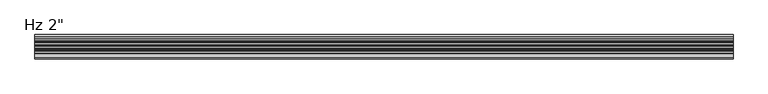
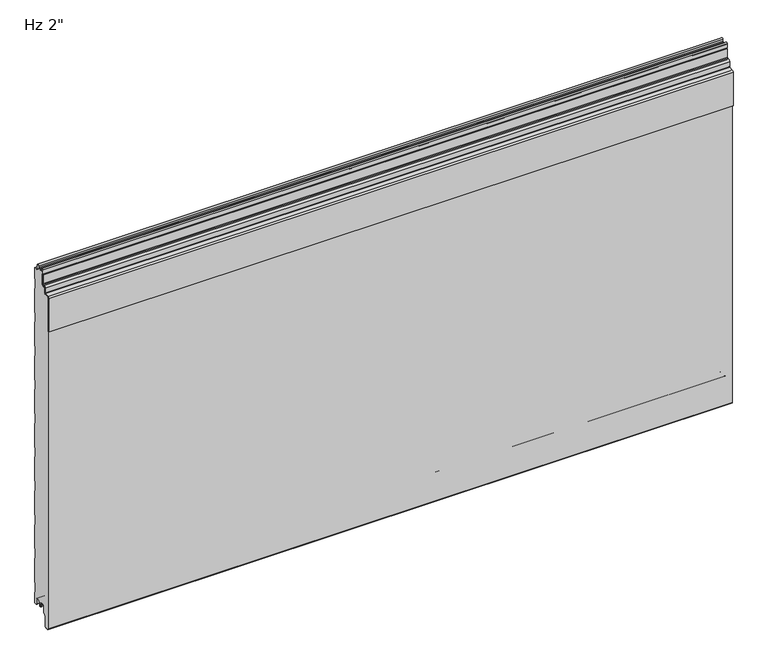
"""IFC4 building model written with IfcOpenShell, lengths in millimetres: plate geometry."""

from ifc_helpers import new_model, si_unit, frame, origin, place, context, project, spatial, polyline, circle_curve, source, transform, mapped, element, save
from ifc_brep_helpers import plane_surface, cylinder_surface, revolved_surface, advanced_brep


def plate_93d587fa(model_context):
    return source(origin(), model_context, "Body", "AdvancedBrep", [
        advanced_brep(
        [(730.0, -29.7008679, 735.9534183), (730.0, -29.7008679, 754.6986183), (730.0, -31.2248679, 754.6986183), (730.0, -31.2248679, 735.9534183), (730.0, -32.7488679, 734.4294183), (730.0, -35.8476679, 734.4294183), (730.0, -39.3020679, 730.9750183), (730.0, -39.3020679, 719.762461), (730.0, -39.9976552, 719.0033606), (730.0, -49.5416507, 717.808533), (730.0, -52.324, 714.7721316), (730.0, -52.3360323, 639.2048183), (730.0, -50.8, 639.2048183), (730.0, -50.8, 714.7721316), (730.0, -49.4088254, 716.2903323), (730.0, -39.8648299, 717.4851599), (730.0, -37.7780679, 719.762461), (730.0, -37.7780679, 730.9750183), (730.0, -35.8476679, 732.9054183), (730.0, -32.7488679, 732.9054183), (-730.0, -29.7008679, 735.9534183), (-730.0, -32.7488679, 732.9054183), (-730.0, -35.8476679, 732.9054183), (-730.0, -37.7780679, 730.9750183), (-730.0, -37.7780679, 719.762461), (-730.0, -39.8648299, 717.4851599), (-730.0, -49.4088254, 716.2903323), (-730.0, -50.8, 714.7721316), (-730.0, -50.8, 639.2048183), (-730.0, -52.3360323, 639.2048183), (-730.0, -52.3360323, 714.7721316), (-730.0, -49.5416507, 717.808533), (-730.0, -39.9976552, 719.0033606), (-730.0, -39.3020679, 719.762461), (-730.0, -39.3020679, 730.9750183), (-730.0, -35.8476679, 734.4294183), (-730.0, -32.7488679, 734.4294183), (-730.0, -31.2248679, 735.9534183), (-730.0, -31.2248679, 754.6986183), (-730.0, -29.7008679, 754.6986183)],
        [
            (0, 1),
            (1, 2),
            (2, 3),
            (3, 4, circle_curve(frame((730.0, -32.7488679, 735.9534183), z_axis=(-1.0, 0.0, 0.0), x_axis=(0.0, 1.0, 0.0)), 1.524)),
            (4, 5),
            (5, 6, circle_curve(frame((730.0, -35.8476679, 730.9750183), z_axis=(1.0, 0.0, 0.0), x_axis=(0.0, 1.0, 0.0)), 3.4544)),
            (6, 7),
            (7, 8, circle_curve(frame((730.0, -40.0640679, 719.762461), z_axis=(-1.0, 0.0, 0.0), x_axis=(0.0, 1.0, 0.0)), 0.762)),
            (8, 9),
            (9, 10, circle_curve(frame((730.0, -49.276, 714.7721316), z_axis=(1.0, 0.0, 0.0), x_axis=(0.0, 1.0, 0.0)), 3.048)),
            (10, 11),
            (11, 12),
            (12, 13),
            (13, 14, circle_curve(frame((730.0, -49.276, 714.7721316), z_axis=(-1.0, 0.0, 0.0), x_axis=(0.0, 1.0, 0.0)), 1.524)),
            (14, 15),
            (15, 16, circle_curve(frame((730.0, -40.0640679, 719.762461), z_axis=(1.0, 0.0, 0.0), x_axis=(0.0, 1.0, 0.0)), 2.286)),
            (16, 17),
            (17, 18, circle_curve(frame((730.0, -35.8476679, 730.9750183), z_axis=(-1.0, 0.0, 0.0), x_axis=(0.0, 1.0, 0.0)), 1.9304)),
            (18, 19),
            (19, 0, circle_curve(frame((730.0, -32.7488679, 735.9534183), z_axis=(1.0, 0.0, 0.0), x_axis=(0.0, 1.0, 0.0)), 3.048)),
            (20, 21, circle_curve(frame((-730.0, -32.7488679, 735.9534183), z_axis=(-1.0, 0.0, 0.0), x_axis=(0.0, 1.0, 0.0)), 3.048)),
            (21, 22),
            (22, 23, circle_curve(frame((-730.0, -35.8476679, 730.9750183), z_axis=(1.0, 0.0, 0.0), x_axis=(0.0, 1.0, 0.0)), 1.9304)),
            (23, 24),
            (24, 25, circle_curve(frame((-730.0, -40.0640679, 719.762461), z_axis=(-1.0, 0.0, 0.0), x_axis=(0.0, 1.0, 0.0)), 2.286)),
            (25, 26),
            (26, 27, circle_curve(frame((-730.0, -49.276, 714.7721316), z_axis=(1.0, 0.0, 0.0), x_axis=(0.0, 1.0, 0.0)), 1.524)),
            (27, 28),
            (28, 29),
            (29, 30),
            (30, 31, circle_curve(frame((-730.0, -49.276, 714.7721316), z_axis=(-1.0, 0.0, 0.0), x_axis=(0.0, 1.0, 0.0)), 3.048)),
            (31, 32),
            (32, 33, circle_curve(frame((-730.0, -40.0640679, 719.762461), z_axis=(1.0, 0.0, 0.0), x_axis=(0.0, 1.0, 0.0)), 0.762)),
            (33, 34),
            (34, 35, circle_curve(frame((-730.0, -35.8476679, 730.9750183), z_axis=(-1.0, 0.0, 0.0), x_axis=(0.0, 1.0, 0.0)), 3.4544)),
            (35, 36),
            (36, 37, circle_curve(frame((-730.0, -32.7488679, 735.9534183), z_axis=(1.0, 0.0, 0.0), x_axis=(0.0, 1.0, 0.0)), 1.524)),
            (37, 38),
            (38, 39),
            (39, 20),
            (2, 38),
            (37, 3),
            (15, 25),
            (24, 16),
            (7, 33),
            (32, 8),
            (5, 35),
            (34, 6),
            (1, 39),
            (36, 4),
            (9, 31),
            (30, 10),
            (13, 27),
            (26, 14),
            (0, 20),
            (12, 28),
            (29, 11),
            (23, 17),
            (18, 22),
            (21, 19),
        ],
        [
            plane_surface(frame((730.0, -50.8, 754.6986183), z_axis=(1.0, 0.0, 0.0), x_axis=(0.0, 0.0, -1.0))),
            plane_surface(frame((-730.0, -50.8, 754.6986183), z_axis=(-1.0, 0.0, 0.0), x_axis=(0.0, 0.0, -1.0))),
            plane_surface(frame((730.0, -31.2248679, 735.9534183), z_axis=(0.0, -1.0, 0.0), x_axis=(-1.0, 0.0, 0.0))),
            cylinder_surface(frame((730.0, -40.0640679, 719.762461), z_axis=(1.0, 0.0, 0.0), x_axis=(0.0, 1.0, 0.0)), 2.286),
            revolved_surface(polyline([(-730.0, -39.3020679, 719.762461), (730.0, -39.3020679, 719.762461)]), (730.0, -40.0640679, 719.762461), (-1.0, 0.0, 0.0)),
            cylinder_surface(frame((730.0, -35.8476679, 730.9750183), z_axis=(1.0, 0.0, 0.0), x_axis=(0.0, 1.0, 0.0)), 3.4544),
            plane_surface(frame((730.0, -31.2248679, 754.6986183), z_axis=(0.0, 0.0, 1.0), x_axis=(-1.0, 0.0, 0.0))),
            revolved_surface(polyline([(-730.0, -31.2248679, 735.9534183), (730.0, -31.2248679, 735.9534183)]), (730.0, -32.7488679, 735.9534183), (-1.0, 0.0, 0.0)),
            cylinder_surface(frame((730.0, -49.276, 714.7721316), z_axis=(1.0, 0.0, 0.0), x_axis=(0.0, 1.0, 0.0)), 3.048),
            revolved_surface(polyline([(-730.0, -47.752, 714.7721316), (730.0, -47.752, 714.7721316)]), (730.0, -49.276, 714.7721316), (-1.0, 0.0, 0.0)),
            plane_surface(frame((730.0, -29.7008679, 754.6986183), z_axis=(0.0, 1.0, 0.0), x_axis=(-1.0, 0.0, 0.0))),
            plane_surface(frame((730.0, -39.8648299, 717.4851599), z_axis=(0.0, 0.12422187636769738, -0.9922544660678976), x_axis=(-1.0, 0.0, 0.0))),
            plane_surface(frame((730.0, -50.8, 714.7721316), z_axis=(0.0, 1.0, 0.0), x_axis=(-1.0, 0.0, 0.0))),
            plane_surface(frame((730.0, -49.5416507, 717.808533), z_axis=(0.0, -0.12422187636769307, 0.9922544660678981), x_axis=(-1.0, 0.0, 0.0))),
            plane_surface(frame((730.0, -35.8476679, 734.4294183), z_axis=(0.0, 0.0, 1.0), x_axis=(-1.0, 0.0, 0.0))),
            plane_surface(frame((730.0, -52.3360323, 639.2048183), z_axis=(0.0, -1.0, 0.0), x_axis=(-1.0, 0.0, 0.0))),
            plane_surface(frame((730.0, -50.8, 639.2048183), z_axis=(0.0, 0.0, -1.0), x_axis=(-1.0, 0.0, 0.0))),
            plane_surface(frame((730.0, -37.7780679, 730.9750183), z_axis=(0.0, 1.0, 0.0), x_axis=(-1.0, 0.0, 0.0))),
            plane_surface(frame((730.0, -32.7488679, 732.9054183), z_axis=(0.0, 0.0, -1.0), x_axis=(-1.0, 0.0, 0.0))),
            plane_surface(frame((730.0, -39.3020679, 719.762461), z_axis=(0.0, -1.0, 0.0), x_axis=(-1.0, 0.0, 0.0))),
            revolved_surface(polyline([(-730.0, -33.9172679, 730.9750183), (730.0, -33.9172679, 730.9750183)]), (730.0, -35.8476679, 730.9750183), (-1.0, 0.0, 0.0)),
            cylinder_surface(frame((730.0, -32.7488679, 735.9534183), z_axis=(1.0, 0.0, 0.0), x_axis=(0.0, 1.0, 0.0)), 3.048),
        ],
        [
            (0, [[1, 2, 3, 4, 5, 6, 7, 8, 9, 10, 11, 12, 13, 14, 15, 16, 17, 18, 19, 20]]),
            (1, [[21, 22, 23, 24, 25, 26, 27, 28, 29, 30, 31, 32, 33, 34, 35, 36, 37, 38, 39, 40]]),
            (2, [[41, -38, 42, -3]]),
            (3, [[43, -25, 44, -16]]),
            (4, [[45, -33, 46, -8]]),
            (5, [[47, -35, 48, -6]]),
            (6, [[49, -39, -41, -2]]),
            (7, [[-42, -37, 50, -4]]),
            (8, [[51, -31, 52, -10]]),
            (9, [[53, -27, 54, -14]]),
            (10, [[55, -40, -49, -1]]),
            (11, [[-54, -26, -43, -15]]),
            (12, [[56, -28, -53, -13]]),
            (13, [[-46, -32, -51, -9]]),
            (14, [[-50, -36, -47, -5]]),
            (15, [[-52, -30, 57, -11]]),
            (16, [[-57, -29, -56, -12]]),
            (17, [[-44, -24, 58, -17]]),
            (18, [[59, -22, 60, -19]]),
            (19, [[-48, -34, -45, -7]]),
            (20, [[-58, -23, -59, -18]]),
            (21, [[-60, -21, -55, -20]]),
        ],
    ),
        advanced_brep(
        [(-730.0, -22.470875, 1.0316999), (-730.0, -21.3014003, 2.2328239), (-730.0, -21.3014003, 5.9912173), (-730.0, -22.6998791, 5.9912173), (-730.0, -22.6998791, 8.6903283), (-730.0, -26.0498744, 12.0403236), (-730.0, -30.4498656, 12.0403236), (-730.0, -33.7998609, 8.6903283), (-730.0, -33.7998609, -3.1205608), (-730.0, -34.2977778, -4.3226385), (-730.0, -39.7998489, -9.8247096), (-730.0, -39.7998489, -31.9198392), (-730.0, -42.0184509, -34.5765709), (-730.0, -47.0002718, -35.0125699), (-730.0, -49.7945967, -32.4521176), (-730.0, -49.8, 713.515622), (-730.0, -48.0149259, 715.4669057), (-730.0, -39.5539491, 716.221161), (-730.0, -36.7906462, 719.3653654), (-730.0, -36.7906462, 729.4583308), (-730.0, -35.8392375, 730.4097394), (-730.0, -32.6955822, 730.4097394), (-730.0, -28.6961293, 734.4091924), (-730.0, -28.6961293, 755.5895515), (-730.0, -30.676977, 756.7334028), (-730.0, -30.3217167, 765.706811), (-730.0, -26.1211391, 765.7037148), (-730.0, -25.8767242, 761.6977997), (-730.0, -24.0819116, 759.9686884), (-730.0, -21.297365, 759.9686884), (-730.0, -21.297365, 760.9686884), (-730.0, -22.884865, 760.9686884), (-730.0, -21.8535534, 762.0), (-730.0, -18.6247968, 762.0), (-730.0, -17.5934852, 760.9686884), (-730.0, -19.0078731, 760.9686884), (-730.0, -19.0078731, 759.9686884), (-730.0, -16.6806905, 759.9686884), (-730.0, -14.9319872, 761.6513685), (-730.0, -14.7123265, 765.7921924), (-730.0, -10.4109885, 765.7931719), (-730.0, -10.0037808, 757.3016499), (-730.0, -6.008945, 753.4787013), (-730.0, -1.0063443, 753.4787013), (-730.0, -1.0063443, 728.9787915), (-730.0, -2.206575, 727.5931585), (-730.0, -2.206575, 708.2179922), (-730.0, -1.0063443, 706.8323593), (-730.0, -1.0063443, 652.7789439), (-730.0, -2.206575, 651.3933109), (-730.0, -2.206575, 632.0181446), (-730.0, -1.0063443, 630.6325117), (-730.0, -1.0063443, 576.5790963), (-730.0, -2.206575, 575.1934633), (-730.0, -2.206575, 555.818297), (-730.0, -1.0063443, 554.4326641), (-730.0, -1.0063443, 500.3792487), (-730.0, -2.206575, 498.9936157), (-730.0, -2.206575, 479.6184494), (-730.0, -1.0063443, 478.2328165), (-730.0, -1.0063443, 424.1794011), (-730.0, -2.206575, 422.7937681), (-730.0, -2.206575, 403.4186018), (-730.0, -1.0063443, 402.0329689), (-730.0, -1.0063443, 347.9795535), (-730.0, -2.206575, 346.5939205), (-730.0, -2.206575, 327.2187542), (-730.0, -1.0063443, 325.8331213), (-730.0, -1.0063443, 271.7797059), (-730.0, -2.206575, 270.3940729), (-730.0, -2.206575, 251.0189066), (-730.0, -1.0063443, 249.6332737), (-730.0, -1.0063443, 195.5798583), (-730.0, -2.206575, 194.1942253), (-730.0, -2.206575, 174.819059), (-730.0, -1.0063443, 173.4334261), (-730.0, -1.0063443, 119.3800107), (-730.0, -2.206575, 117.9943777), (-730.0, -2.206575, 98.6192114), (-730.0, -1.0063443, 97.2335785), (-730.0, -1.0063443, 43.1801631), (-730.0, -2.206575, 41.7945301), (-730.0, -2.206575, 22.4193638), (-730.0, -1.0063443, 21.0337309), (-730.0, -1.0063443, -3.4662506), (-730.0, -5.2378832, -3.4662506), (-730.0, -7.0078774, -1.6962564), (-730.0, -7.0078774, 8.7237222), (-730.0, -10.3078733, 12.023718), (-730.0, -14.7078645, 12.023718), (-730.0, -18.0078602, 8.7237223), (-730.0, -18.0078602, 6.0315125), (-730.0, -19.0078547, 6.0315125), (-730.0, -19.0078547, 2.0313089), (-730.0, -18.0078635, 1.0313117), (-730.0, -19.0391752, 0.0), (-730.0, -21.4391751, 0.0), (730.0, -22.470875, 1.0316999), (730.0, -21.4391751, 0.0), (730.0, -19.0391752, 0.0), (730.0, -18.0078635, 1.0313117), (730.0, -19.0078547, 2.0313089), (730.0, -19.0078547, 6.0315125), (730.0, -18.0078602, 6.0315125), (730.0, -18.0078602, 8.7237223), (730.0, -14.7078645, 12.023718), (730.0, -10.3078733, 12.023718), (730.0, -7.0078774, 8.7237222), (730.0, -7.0078774, -1.6962564), (730.0, -5.2378832, -3.4662506), (730.0, -1.0063443, -3.4662506), (730.0, -1.0063443, 21.0337309), (730.0, -2.206575, 22.4193638), (730.0, -2.206575, 41.7945301), (730.0, -1.0063443, 43.1801631), (730.0, -1.0063443, 97.2335785), (730.0, -2.206575, 98.6192114), (730.0, -2.206575, 117.9943777), (730.0, -1.0063443, 119.3800107), (730.0, -1.0063443, 173.4334261), (730.0, -2.206575, 174.819059), (730.0, -2.206575, 194.1942253), (730.0, -1.0063443, 195.5798583), (730.0, -1.0063443, 249.6332737), (730.0, -2.206575, 251.0189066), (730.0, -2.206575, 270.3940729), (730.0, -1.0063443, 271.7797059), (730.0, -1.0063443, 325.8331213), (730.0, -2.206575, 327.2187542), (730.0, -2.206575, 346.5939205), (730.0, -1.0063443, 347.9795535), (730.0, -1.0063443, 402.0329689), (730.0, -2.206575, 403.4186018), (730.0, -2.206575, 422.7937681), (730.0, -1.0063443, 424.1794011), (730.0, -1.0063443, 478.2328165), (730.0, -2.206575, 479.6184494), (730.0, -2.206575, 498.9936157), (730.0, -1.0063443, 500.3792487), (730.0, -1.0063443, 554.4326641), (730.0, -2.206575, 555.818297), (730.0, -2.206575, 575.1934633), (730.0, -1.0063443, 576.5790963), (730.0, -1.0063443, 630.6325117), (730.0, -2.206575, 632.0181446), (730.0, -2.206575, 651.3933109), (730.0, -1.0063443, 652.7789439), (730.0, -1.0063443, 706.8323593), (730.0, -2.206575, 708.2179922), (730.0, -2.206575, 727.5931585), (730.0, -1.0063443, 728.9787915), (730.0, -1.0063443, 753.4787013), (730.0, -6.008945, 753.4787013), (730.0, -10.0037808, 757.3016499), (730.0, -10.4109885, 765.7931719), (730.0, -14.7123265, 765.7921924), (730.0, -14.9319872, 761.6513685), (730.0, -16.6806905, 759.9686884), (730.0, -19.0078731, 759.9686884), (730.0, -19.0078731, 760.9686884), (730.0, -17.5934852, 760.9686884), (730.0, -18.6247968, 762.0), (730.0, -21.8535534, 762.0), (730.0, -22.884865, 760.9686884), (730.0, -21.297365, 760.9686884), (730.0, -21.297365, 759.9686884), (730.0, -24.0819116, 759.9686884), (730.0, -25.8767242, 761.6977997), (730.0, -26.1211391, 765.7037148), (730.0, -30.3217167, 765.706811), (730.0, -30.676977, 756.7334028), (730.0, -28.6961293, 755.5895515), (730.0, -28.6961293, 734.4091924), (730.0, -32.6955822, 730.4097394), (730.0, -35.8392375, 730.4097394), (730.0, -36.7906462, 729.4583308), (730.0, -36.7906462, 719.3653654), (730.0, -39.5539491, 716.221161), (730.0, -48.0149259, 715.4669057), (730.0, -49.8, 713.515622), (730.0, -49.8, -32.4521176), (730.0, -47.0002718, -35.0125699), (730.0, -42.0184509, -34.5765709), (730.0, -39.7998489, -31.9198392), (730.0, -39.7998489, -9.8247096), (730.0, -34.2977778, -4.3226385), (730.0, -33.7998609, -3.1205608), (730.0, -33.7998609, 8.6903283), (730.0, -30.4498656, 12.0403236), (730.0, -26.0498744, 12.0403236), (730.0, -22.6998791, 8.6903283), (730.0, -22.6998791, 5.9912173), (730.0, -21.3014003, 5.9912173), (730.0, -21.3014003, 2.2328239)],
        [
            (0, 1, circle_curve(frame((-730.0, -22.5013969, 2.2313092), z_axis=(1.0, 0.0, 0.0), x_axis=(0.0, 0.0, -1.0)), 1.1999976)),
            (1, 2),
            (2, 3),
            (3, 4),
            (4, 5, circle_curve(frame((-730.0, -26.0498744, 8.6903283), z_axis=(1.0, 0.0, 0.0), x_axis=(0.0, 0.0, -1.0)), 3.3499953)),
            (5, 6),
            (6, 7, circle_curve(frame((-730.0, -30.4498656, 8.6903283), z_axis=(1.0, 0.0, 0.0), x_axis=(0.0, 0.0, -1.0)), 3.3499953)),
            (7, 8),
            (8, 9, circle_curve(frame((-730.0, -35.4998555, -3.1205608), z_axis=(-1.0, 0.0, 0.0), x_axis=(0.0, 0.0, -1.0)), 1.6999946)),
            (9, 10),
            (10, 11),
            (11, 12, circle_curve(frame((-730.0, -42.4998415, -31.9198392), z_axis=(-1.0, 0.0, 0.0), x_axis=(0.0, 0.0, -1.0)), 2.6999926)),
            (12, 13),
            (13, 14, circle_curve(frame((-730.0, -47.2243575, -32.4521176), z_axis=(-1.0, 0.0, 0.0), x_axis=(0.0, 0.0, -1.0)), 2.5702393)),
            (14, 15),
            (15, 16, circle_curve(frame((-730.0, -47.8409784, 713.515622), z_axis=(-1.0, 0.0, 0.0), x_axis=(0.0, 0.0, -1.0)), 1.9590216)),
            (16, 17),
            (17, 18, circle_curve(frame((-730.0, -39.8180321, 719.2396267), z_axis=(1.0, 0.0, 0.0), x_axis=(0.0, 0.0, -1.0)), 3.0299959)),
            (18, 19),
            (19, 20, circle_curve(frame((-730.0, -35.8392375, 729.4583308), z_axis=(-1.0, 0.0, 0.0), x_axis=(0.0, 0.0, -1.0)), 0.9514087)),
            (20, 21),
            (21, 22, circle_curve(frame((-730.0, -32.6955822, 734.4091924), z_axis=(1.0, 0.0, 0.0), x_axis=(0.0, 0.0, -1.0)), 3.9994529)),
            (22, 23),
            (23, 24),
            (24, 25),
            (25, 26, circle_curve(frame((-730.0, -28.2214881, 765.6236622), z_axis=(-1.0, 0.0, 0.0), x_axis=(0.0, 0.0, -1.0)), 2.1018739)),
            (26, 27),
            (27, 28, circle_curve(frame((-730.0, -24.0383506, 761.8099653), z_axis=(1.0, 0.0, 0.0), x_axis=(0.0, 0.0, -1.0)), 1.8417922)),
            (28, 29),
            (29, 30),
            (30, 31),
            (31, 32),
            (32, 33),
            (33, 34),
            (34, 35),
            (35, 36),
            (36, 37),
            (37, 38, circle_curve(frame((-730.0, -16.6806905, 761.7186869), z_axis=(1.0, 0.0, 0.0), x_axis=(0.0, 0.0, -1.0)), 1.7499985)),
            (38, 39),
            (39, 40, circle_curve(frame((-730.0, -12.5616314, 765.6781032), z_axis=(-1.0, 0.0, 0.0), x_axis=(0.0, 0.0, -1.0)), 2.153719)),
            (40, 41),
            (41, 42, circle_curve(frame((-730.0, -5.9930781, 757.4939817), z_axis=(1.0, 0.0, 0.0), x_axis=(0.0, 0.0, -1.0)), 4.0153117)),
            (42, 43),
            (43, 44),
            (44, 45),
            (45, 46),
            (46, 47),
            (47, 48),
            (48, 49),
            (49, 50),
            (50, 51),
            (51, 52),
            (52, 53),
            (53, 54),
            (54, 55),
            (55, 56),
            (56, 57),
            (57, 58),
            (58, 59),
            (59, 60),
            (60, 61),
            (61, 62),
            (62, 63),
            (63, 64),
            (64, 65),
            (65, 66),
            (66, 67),
            (67, 68),
            (68, 69),
            (69, 70),
            (70, 71),
            (71, 72),
            (72, 73),
            (73, 74),
            (74, 75),
            (75, 76),
            (76, 77),
            (77, 78),
            (78, 79),
            (79, 80),
            (80, 81),
            (81, 82),
            (82, 83),
            (83, 84),
            (84, 85),
            (85, 86, circle_curve(frame((-730.0, -5.2378832, -1.6962564), z_axis=(-1.0, 0.0, 0.0), x_axis=(0.0, 0.0, -1.0)), 1.7699942)),
            (86, 87),
            (87, 88, circle_curve(frame((-730.0, -10.3078733, 8.7237222), z_axis=(1.0, 0.0, 0.0), x_axis=(0.0, 0.0, -1.0)), 3.2999959)),
            (88, 89),
            (89, 90, circle_curve(frame((-730.0, -14.7078645, 8.7237223), z_axis=(1.0, 0.0, 0.0), x_axis=(0.0, 0.0, -1.0)), 3.2999957)),
            (90, 91),
            (91, 92),
            (92, 93),
            (93, 94, circle_curve(frame((-730.0, -18.0078576, 2.0313089), z_axis=(1.0, 0.0, 0.0), x_axis=(0.0, 0.0, -1.0)), 0.9999972)),
            (94, 95),
            (95, 96),
            (96, 0),
            (97, 98),
            (98, 99),
            (99, 100),
            (100, 101, circle_curve(frame((730.0, -18.0078576, 2.0313089), z_axis=(-1.0, 0.0, 0.0), x_axis=(0.0, 0.0, -1.0)), 0.9999972)),
            (101, 102),
            (102, 103),
            (103, 104),
            (104, 105, circle_curve(frame((730.0, -14.7078645, 8.7237223), z_axis=(-1.0, 0.0, 0.0), x_axis=(0.0, 0.0, -1.0)), 3.2999957)),
            (105, 106),
            (106, 107, circle_curve(frame((730.0, -10.3078733, 8.7237222), z_axis=(-1.0, 0.0, 0.0), x_axis=(0.0, 0.0, -1.0)), 3.2999959)),
            (107, 108),
            (108, 109, circle_curve(frame((730.0, -5.2378832, -1.6962564), z_axis=(1.0, 0.0, 0.0), x_axis=(0.0, 0.0, -1.0)), 1.7699942)),
            (109, 110),
            (110, 111),
            (111, 112),
            (112, 113),
            (113, 114),
            (114, 115),
            (115, 116),
            (116, 117),
            (117, 118),
            (118, 119),
            (119, 120),
            (120, 121),
            (121, 122),
            (122, 123),
            (123, 124),
            (124, 125),
            (125, 126),
            (126, 127),
            (127, 128),
            (128, 129),
            (129, 130),
            (130, 131),
            (131, 132),
            (132, 133),
            (133, 134),
            (134, 135),
            (135, 136),
            (136, 137),
            (137, 138),
            (138, 139),
            (139, 140),
            (140, 141),
            (141, 142),
            (142, 143),
            (143, 144),
            (144, 145),
            (145, 146),
            (146, 147),
            (147, 148),
            (148, 149),
            (149, 150),
            (150, 151),
            (151, 152),
            (152, 153, circle_curve(frame((730.0, -5.9930781, 757.4939817), z_axis=(-1.0, 0.0, 0.0), x_axis=(0.0, 0.0, -1.0)), 4.0153117)),
            (153, 154),
            (154, 155, circle_curve(frame((730.0, -12.5616314, 765.6781032), z_axis=(1.0, 0.0, 0.0), x_axis=(0.0, 0.0, -1.0)), 2.153719)),
            (155, 156),
            (156, 157, circle_curve(frame((730.0, -16.6806905, 761.7186869), z_axis=(-1.0, 0.0, 0.0), x_axis=(0.0, 0.0, -1.0)), 1.7499985)),
            (157, 158),
            (158, 159),
            (159, 160),
            (160, 161),
            (161, 162),
            (162, 163),
            (163, 164),
            (164, 165),
            (165, 166),
            (166, 167, circle_curve(frame((730.0, -24.0383506, 761.8099653), z_axis=(-1.0, 0.0, 0.0), x_axis=(0.0, 0.0, -1.0)), 1.8417922)),
            (167, 168),
            (168, 169, circle_curve(frame((730.0, -28.2214881, 765.6236622), z_axis=(1.0, 0.0, 0.0), x_axis=(0.0, 0.0, -1.0)), 2.1018739)),
            (169, 170),
            (170, 171),
            (171, 172),
            (172, 173, circle_curve(frame((730.0, -32.6955822, 734.4091924), z_axis=(-1.0, 0.0, 0.0), x_axis=(0.0, 0.0, -1.0)), 3.9994529)),
            (173, 174),
            (174, 175, circle_curve(frame((730.0, -35.8392375, 729.4583308), z_axis=(1.0, 0.0, 0.0), x_axis=(0.0, 0.0, -1.0)), 0.9514087)),
            (175, 176),
            (176, 177, circle_curve(frame((730.0, -39.8180321, 719.2396267), z_axis=(-1.0, 0.0, 0.0), x_axis=(0.0, 0.0, -1.0)), 3.0299959)),
            (177, 178),
            (178, 179, circle_curve(frame((730.0, -47.8409784, 713.515622), z_axis=(1.0, 0.0, 0.0), x_axis=(0.0, 0.0, -1.0)), 1.9590216)),
            (179, 180),
            (180, 181, circle_curve(frame((730.0, -47.2243575, -32.4521176), z_axis=(1.0, 0.0, 0.0), x_axis=(0.0, 0.0, -1.0)), 2.5702393)),
            (181, 182),
            (182, 183, circle_curve(frame((730.0, -42.4998415, -31.9198392), z_axis=(1.0, 0.0, 0.0), x_axis=(0.0, 0.0, -1.0)), 2.6999926)),
            (183, 184),
            (184, 185),
            (185, 186, circle_curve(frame((730.0, -35.4998555, -3.1205608), z_axis=(1.0, 0.0, 0.0), x_axis=(0.0, 0.0, -1.0)), 1.6999946)),
            (186, 187),
            (187, 188, circle_curve(frame((730.0, -30.4498656, 8.6903283), z_axis=(-1.0, 0.0, 0.0), x_axis=(0.0, 0.0, -1.0)), 3.3499953)),
            (188, 189),
            (189, 190, circle_curve(frame((730.0, -26.0498744, 8.6903283), z_axis=(-1.0, 0.0, 0.0), x_axis=(0.0, 0.0, -1.0)), 3.3499953)),
            (190, 191),
            (191, 192),
            (192, 193),
            (193, 97, circle_curve(frame((730.0, -22.5013969, 2.2313092), z_axis=(-1.0, 0.0, 0.0), x_axis=(0.0, 0.0, -1.0)), 1.1999976)),
            (41, 153),
            (152, 42),
            (151, 43),
            (95, 99),
            (98, 96),
            (32, 162),
            (161, 33),
            (47, 147),
            (146, 48),
            (145, 49),
            (144, 50),
            (51, 143),
            (142, 52),
            (55, 139),
            (138, 56),
            (54, 140),
            (53, 141),
            (137, 57),
            (136, 58),
            (59, 135),
            (134, 60),
            (133, 61),
            (132, 62),
            (63, 131),
            (130, 64),
            (65, 129),
            (128, 66),
            (127, 67),
            (126, 68),
            (71, 123),
            (122, 72),
            (70, 124),
            (69, 125),
            (73, 121),
            (120, 74),
            (75, 119),
            (118, 76),
            (79, 115),
            (114, 80),
            (77, 117),
            (116, 78),
            (44, 150),
            (149, 45),
            (148, 46),
            (81, 113),
            (112, 82),
            (111, 83),
            (110, 84),
            (40, 154),
            (0, 97),
            (193, 1),
            (39, 155),
            (38, 156),
            (36, 158),
            (157, 37),
            (34, 160),
            (159, 35),
            (87, 107),
            (106, 88),
            (109, 85),
            (86, 108),
            (89, 105),
            (104, 90),
            (91, 103),
            (102, 92),
            (14, 180),
            (179, 15),
            (94, 100),
            (93, 101),
            (13, 181),
            (16, 178),
            (177, 17),
            (176, 18),
            (19, 175),
            (174, 20),
            (173, 21),
            (172, 22),
            (23, 171),
            (170, 24),
            (169, 25),
            (168, 26),
            (29, 165),
            (164, 30),
            (28, 166),
            (27, 167),
            (31, 163),
            (12, 182),
            (10, 184),
            (183, 11),
            (9, 185),
            (7, 187),
            (186, 8),
            (6, 188),
            (4, 190),
            (189, 5),
            (3, 191),
            (2, 192),
        ],
        [
            plane_surface(frame((-730.0, -49.8, 381.0), z_axis=(-1.0, 0.0, 0.0), x_axis=(0.0, -1.0, 0.0))),
            plane_surface(frame((730.0, -49.8, 381.0), z_axis=(1.0, 0.0, 0.0), x_axis=(0.0, -1.0, 0.0))),
            revolved_surface(polyline([(730.0, -5.9930781, 753.47867), (-730.0, -5.9930781, 753.47867)]), (-730.0, -5.9930781, 757.4939817), (1.0, 0.0, 0.0)),
            plane_surface(frame((-730.0, -1.0063443, 753.4787013), z_axis=(0.0, 0.0, 1.0), x_axis=(1.0, 0.0, 0.0))),
            plane_surface(frame((-730.0, -21.4391751, 0.0), z_axis=(0.0, 0.0, -1.0), x_axis=(1.0, 0.0, 0.0))),
            plane_surface(frame((-730.0, -18.6247968, 762.0), z_axis=(0.0, 0.0, 1.0), x_axis=(1.0, 0.0, 0.0))),
            plane_surface(frame((-730.0, -1.0063443, 652.7789439), z_axis=(0.0, 1.0, 0.0), x_axis=(1.0, 0.0, 0.0))),
            plane_surface(frame((-730.0, -2.206575, 651.3933109), z_axis=(0.0, 0.7558648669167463, -0.6547276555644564), x_axis=(1.0, 0.0, 0.0))),
            plane_surface(frame((-730.0, -2.206575, 632.0181446), z_axis=(0.0, 1.0, 0.0), x_axis=(1.0, 0.0, 0.0))),
            plane_surface(frame((-730.0, -1.0063443, 576.5790963), z_axis=(0.0, 1.0, 0.0), x_axis=(1.0, 0.0, 0.0))),
            plane_surface(frame((-730.0, -1.0063443, 630.6325117), z_axis=(0.0, 0.7558648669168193, 0.6547276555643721), x_axis=(1.0, 0.0, 0.0))),
            plane_surface(frame((-730.0, -1.0063443, 500.3792487), z_axis=(0.0, 1.0, 0.0), x_axis=(1.0, 0.0, 0.0))),
            plane_surface(frame((-730.0, -1.0063443, 554.4326641), z_axis=(0.0, 0.7558648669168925, 0.6547276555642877), x_axis=(1.0, 0.0, 0.0))),
            plane_surface(frame((-730.0, -2.206575, 555.818297), z_axis=(0.0, 1.0, 0.0), x_axis=(1.0, 0.0, 0.0))),
            plane_surface(frame((-730.0, -2.206575, 575.1934633), z_axis=(0.0, 0.7558648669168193, -0.6547276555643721), x_axis=(1.0, 0.0, 0.0))),
            plane_surface(frame((-730.0, -2.206575, 498.9936157), z_axis=(0.0, 0.7558648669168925, -0.6547276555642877), x_axis=(1.0, 0.0, 0.0))),
            plane_surface(frame((-730.0, -2.206575, 479.6184494), z_axis=(0.0, 1.0, 0.0), x_axis=(1.0, 0.0, 0.0))),
            plane_surface(frame((-730.0, -1.0063443, 424.1794011), z_axis=(0.0, 1.0, 0.0), x_axis=(1.0, 0.0, 0.0))),
            plane_surface(frame((-730.0, -1.0063443, 478.2328165), z_axis=(0.0, 0.7558648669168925, 0.6547276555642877), x_axis=(1.0, 0.0, 0.0))),
            plane_surface(frame((-730.0, -2.206575, 422.7937681), z_axis=(0.0, 0.7558648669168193, -0.6547276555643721), x_axis=(1.0, 0.0, 0.0))),
            plane_surface(frame((-730.0, -2.206575, 403.4186018), z_axis=(0.0, 1.0, 0.0), x_axis=(1.0, 0.0, 0.0))),
            plane_surface(frame((-730.0, -1.0063443, 347.9795535), z_axis=(0.0, 1.0, 0.0), x_axis=(1.0, 0.0, 0.0))),
            plane_surface(frame((-730.0, -1.0063443, 402.0329689), z_axis=(0.0, 0.755864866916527, 0.6547276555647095), x_axis=(1.0, 0.0, 0.0))),
            plane_surface(frame((-730.0, -2.206575, 327.2187542), z_axis=(0.0, 1.0, 0.0), x_axis=(1.0, 0.0, 0.0))),
            plane_surface(frame((-730.0, -1.0063443, 325.8331213), z_axis=(0.0, 0.755864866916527, 0.6547276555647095), x_axis=(1.0, 0.0, 0.0))),
            plane_surface(frame((-730.0, -2.206575, 346.5939205), z_axis=(0.0, 0.755864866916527, -0.6547276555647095), x_axis=(1.0, 0.0, 0.0))),
            plane_surface(frame((-730.0, -1.0063443, 271.7797059), z_axis=(0.0, 1.0, 0.0), x_axis=(1.0, 0.0, 0.0))),
            plane_surface(frame((-730.0, -1.0063443, 195.5798583), z_axis=(0.0, 1.0, 0.0), x_axis=(1.0, 0.0, 0.0))),
            plane_surface(frame((-730.0, -1.0063443, 249.6332737), z_axis=(0.0, 0.7558648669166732, 0.6547276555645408), x_axis=(1.0, 0.0, 0.0))),
            plane_surface(frame((-730.0, -2.206575, 251.0189066), z_axis=(0.0, 1.0, 0.0), x_axis=(1.0, 0.0, 0.0))),
            plane_surface(frame((-730.0, -2.206575, 270.3940729), z_axis=(0.0, 0.755864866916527, -0.6547276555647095), x_axis=(1.0, 0.0, 0.0))),
            plane_surface(frame((-730.0, -2.206575, 174.819059), z_axis=(0.0, 1.0, 0.0), x_axis=(1.0, 0.0, 0.0))),
            plane_surface(frame((-730.0, -2.206575, 194.1942253), z_axis=(0.0, 0.7558648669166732, -0.6547276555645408), x_axis=(1.0, 0.0, 0.0))),
            plane_surface(frame((-730.0, -1.0063443, 119.3800107), z_axis=(0.0, 1.0, 0.0), x_axis=(1.0, 0.0, 0.0))),
            plane_surface(frame((-730.0, -1.0063443, 173.4334261), z_axis=(0.0, 0.7558648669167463, 0.6547276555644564), x_axis=(1.0, 0.0, 0.0))),
            plane_surface(frame((-730.0, -1.0063443, 43.1801631), z_axis=(0.0, 1.0, 0.0), x_axis=(1.0, 0.0, 0.0))),
            plane_surface(frame((-730.0, -2.206575, 98.6192114), z_axis=(0.0, 1.0, 0.0), x_axis=(1.0, 0.0, 0.0))),
            plane_surface(frame((-730.0, -2.206575, 117.9943777), z_axis=(0.0, 0.7558648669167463, -0.6547276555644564), x_axis=(1.0, 0.0, 0.0))),
            plane_surface(frame((-730.0, -1.0063443, 97.2335785), z_axis=(0.0, 0.7558648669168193, 0.6547276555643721), x_axis=(1.0, 0.0, 0.0))),
            plane_surface(frame((-730.0, -2.206575, 727.5931585), z_axis=(0.0, 0.7558648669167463, -0.6547276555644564), x_axis=(1.0, 0.0, 0.0))),
            plane_surface(frame((-730.0, -2.206575, 708.2179922), z_axis=(0.0, 1.0, 0.0), x_axis=(1.0, 0.0, 0.0))),
            plane_surface(frame((-730.0, -1.0063443, 706.8323593), z_axis=(0.0, 0.7558648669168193, 0.6547276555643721), x_axis=(1.0, 0.0, 0.0))),
            plane_surface(frame((-730.0, -1.0063443, 728.9787915), z_axis=(0.0, 1.0, 0.0), x_axis=(1.0, 0.0, 0.0))),
            plane_surface(frame((-730.0, -2.206575, 22.4193638), z_axis=(0.0, 1.0, 0.0), x_axis=(1.0, 0.0, 0.0))),
            plane_surface(frame((-730.0, -2.206575, 41.7945301), z_axis=(0.0, 0.7558648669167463, -0.6547276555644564), x_axis=(1.0, 0.0, 0.0))),
            plane_surface(frame((-730.0, -1.0063443, 21.0337309), z_axis=(0.0, 0.7558648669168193, 0.6547276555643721), x_axis=(1.0, 0.0, 0.0))),
            plane_surface(frame((-730.0, -1.0063443, -3.4662506), z_axis=(0.0, 1.0, 0.0), x_axis=(1.0, 0.0, 0.0))),
            plane_surface(frame((-730.0, -10.0037808, 757.3016499), z_axis=(0.0, 0.9988521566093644, 0.04789957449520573), x_axis=(1.0, 0.0, 0.0))),
            revolved_surface(polyline([(730.0, -22.5013969, 1.0313116), (-730.0, -22.5013969, 1.0313116)]), (-730.0, -22.5013969, 2.2313092), (1.0, 0.0, 0.0)),
            plane_surface(frame((-730.0, -22.470875, 1.0316999), z_axis=(0.0, -0.7071067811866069, -0.7071067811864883), x_axis=(1.0, 0.0, 0.0))),
            cylinder_surface(frame((-730.0, -12.5616314, 765.6781032), z_axis=(-1.0, 0.0, 0.0), x_axis=(0.0, 0.0, -1.0)), 2.153719),
            plane_surface(frame((-730.0, -14.7123265, 765.7921924), z_axis=(0.0, -0.9985959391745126, 0.05297310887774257), x_axis=(1.0, 0.0, 0.0))),
            plane_surface(frame((-730.0, -16.6806905, 759.9686884), z_axis=(0.0, 0.0, 1.0), x_axis=(1.0, 0.0, 0.0))),
            revolved_surface(polyline([(730.0, -16.6806905, 759.9686884), (-730.0, -16.6806905, 759.9686884)]), (-730.0, -16.6806905, 761.7186869), (1.0, 0.0, 0.0)),
            plane_surface(frame((-730.0, -19.0078731, 760.9686884), z_axis=(0.0, 0.0, -1.0), x_axis=(1.0, 0.0, 0.0))),
            plane_surface(frame((-730.0, -19.0078731, 759.9686884), z_axis=(0.0, 1.0, 0.0), x_axis=(1.0, 0.0, 0.0))),
            plane_surface(frame((-730.0, -17.5934852, 760.9686884), z_axis=(0.0, 0.7071067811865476, 0.7071067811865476), x_axis=(1.0, 0.0, 0.0))),
            revolved_surface(polyline([(730.0, -10.3078733, 5.423726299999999), (-730.0, -10.3078733, 5.423726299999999)]), (-730.0, -10.3078733, 8.7237222), (1.0, 0.0, 0.0)),
            plane_surface(frame((-730.0, -5.2378832, -3.4662506), z_axis=(0.0, 0.0, -1.0), x_axis=(1.0, 0.0, 0.0))),
            plane_surface(frame((-730.0, -7.0078774, 8.7237222), z_axis=(0.0, -1.0, 0.0), x_axis=(1.0, 0.0, 0.0))),
            cylinder_surface(frame((-730.0, -5.2378832, -1.6962564), z_axis=(-1.0, 0.0, 0.0), x_axis=(0.0, 0.0, -1.0)), 1.7699942),
            revolved_surface(polyline([(730.0, -14.7078645, 5.4237266), (-730.0, -14.7078645, 5.4237266)]), (-730.0, -14.7078645, 8.7237223), (1.0, 0.0, 0.0)),
            plane_surface(frame((-730.0, -14.7078645, 12.023718), z_axis=(0.0, 0.0, -1.0), x_axis=(1.0, 0.0, 0.0))),
            plane_surface(frame((-730.0, -19.0078547, 6.0315125), z_axis=(0.0, 0.0, -1.0), x_axis=(1.0, 0.0, 0.0))),
            plane_surface(frame((-730.0, -18.0078602, 6.0315125), z_axis=(0.0, 1.0, 0.0), x_axis=(1.0, 0.0, 0.0))),
            plane_surface(frame((-730.0, -49.8, 713.515622), z_axis=(0.0, -1.0, 0.0), x_axis=(1.0, 0.0, 0.0))),
            plane_surface(frame((-730.0, -19.0391752, 0.0), z_axis=(0.0, 0.7071067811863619, -0.7071067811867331), x_axis=(1.0, 0.0, 0.0))),
            revolved_surface(polyline([(730.0, -18.0078576, 1.0313116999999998), (-730.0, -18.0078576, 1.0313116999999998)]), (-730.0, -18.0078576, 2.0313089), (1.0, 0.0, 0.0)),
            plane_surface(frame((-730.0, -19.0078547, 2.0313089), z_axis=(0.0, 1.0, 0.0), x_axis=(1.0, 0.0, 0.0))),
            cylinder_surface(frame((-730.0, -47.2243575, -32.4521176), z_axis=(-1.0, 0.0, 0.0), x_axis=(0.0, 0.0, -1.0)), 2.5702393),
            plane_surface(frame((-730.0, -39.5539491, 716.221161), z_axis=(0.0, -0.08879306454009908, 0.9960500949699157), x_axis=(1.0, 0.0, 0.0))),
            revolved_surface(polyline([(730.0, -39.8180321, 716.2096308), (-730.0, -39.8180321, 716.2096308)]), (-730.0, -39.8180321, 719.2396267), (1.0, 0.0, 0.0)),
            cylinder_surface(frame((-730.0, -47.8409784, 713.515622), z_axis=(-1.0, 0.0, 0.0), x_axis=(0.0, 0.0, -1.0)), 1.9590216),
            cylinder_surface(frame((-730.0, -35.8392375, 729.4583308), z_axis=(-1.0, 0.0, 0.0), x_axis=(0.0, 0.0, -1.0)), 0.9514087),
            plane_surface(frame((-730.0, -36.7906462, 729.4583308), z_axis=(0.0, -1.0, 0.0), x_axis=(1.0, 0.0, 0.0))),
            plane_surface(frame((-730.0, -32.6955822, 730.4097394), z_axis=(0.0, 0.0, 1.0), x_axis=(1.0, 0.0, 0.0))),
            revolved_surface(polyline([(730.0, -32.6955822, 730.4097395), (-730.0, -32.6955822, 730.4097395)]), (-730.0, -32.6955822, 734.4091924), (1.0, 0.0, 0.0)),
            plane_surface(frame((-730.0, -30.676977, 756.7334028), z_axis=(0.0, -0.5000682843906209, -0.8659859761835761), x_axis=(1.0, 0.0, 0.0))),
            plane_surface(frame((-730.0, -28.6961293, 755.5895515), z_axis=(0.0, -1.0, 0.0), x_axis=(1.0, 0.0, 0.0))),
            plane_surface(frame((-730.0, -30.3217167, 765.706811), z_axis=(0.0, -0.999217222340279, 0.03955935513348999), x_axis=(1.0, 0.0, 0.0))),
            cylinder_surface(frame((-730.0, -28.2214881, 765.6236622), z_axis=(-1.0, 0.0, 0.0), x_axis=(0.0, 0.0, -1.0)), 2.1018739),
            plane_surface(frame((-730.0, -21.297365, 760.9686884), z_axis=(0.0, -1.0, 0.0), x_axis=(1.0, 0.0, 0.0))),
            plane_surface(frame((-730.0, -21.297365, 759.9686884), z_axis=(0.0, 0.0, 1.0), x_axis=(1.0, 0.0, 0.0))),
            revolved_surface(polyline([(730.0, -24.0383506, 759.9681731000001), (-730.0, -24.0383506, 759.9681731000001)]), (-730.0, -24.0383506, 761.8099653), (1.0, 0.0, 0.0)),
            plane_surface(frame((-730.0, -25.8767242, 761.6977997), z_axis=(0.0, 0.9981438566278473, 0.060900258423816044), x_axis=(1.0, 0.0, 0.0))),
            plane_surface(frame((-730.0, -21.8535534, 762.0), z_axis=(0.0, -0.7071067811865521, 0.707106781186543), x_axis=(1.0, 0.0, 0.0))),
            plane_surface(frame((-730.0, -22.884865, 760.9686884), z_axis=(0.0, 0.0, -1.0), x_axis=(1.0, 0.0, 0.0))),
            plane_surface(frame((-730.0, -47.0002718, -35.0125699), z_axis=(0.0, 0.08718474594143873, -0.9961921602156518), x_axis=(1.0, 0.0, 0.0))),
            plane_surface(frame((-730.0, -39.7998489, -31.9198392), z_axis=(0.0, 1.0, 0.0), x_axis=(1.0, 0.0, 0.0))),
            cylinder_surface(frame((-730.0, -42.4998415, -31.9198392), z_axis=(-1.0, 0.0, 0.0), x_axis=(0.0, 0.0, -1.0)), 2.6999926),
            plane_surface(frame((-730.0, -39.7998489, -9.8247096), z_axis=(0.0, 0.7071067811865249, -0.7071067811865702), x_axis=(1.0, 0.0, 0.0))),
            plane_surface(frame((-730.0, -33.7998609, -3.1205608), z_axis=(0.0, 1.0, 0.0), x_axis=(1.0, 0.0, 0.0))),
            revolved_surface(polyline([(730.0, -30.4498656, 5.340332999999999), (-730.0, -30.4498656, 5.340332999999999)]), (-730.0, -30.4498656, 8.6903283), (1.0, 0.0, 0.0)),
            cylinder_surface(frame((-730.0, -35.4998555, -3.1205608), z_axis=(-1.0, 0.0, 0.0), x_axis=(0.0, 0.0, -1.0)), 1.6999946),
            revolved_surface(polyline([(730.0, -26.0498744, 5.340332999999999), (-730.0, -26.0498744, 5.340332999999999)]), (-730.0, -26.0498744, 8.6903283), (1.0, 0.0, 0.0)),
            plane_surface(frame((-730.0, -30.4498656, 12.0403236), z_axis=(0.0, 0.0, -1.0), x_axis=(1.0, 0.0, 0.0))),
            plane_surface(frame((-730.0, -22.6998791, 8.6903283), z_axis=(0.0, -1.0, 0.0), x_axis=(1.0, 0.0, 0.0))),
            plane_surface(frame((-730.0, -22.6998791, 5.9912173), z_axis=(0.0, 0.0, -1.0), x_axis=(1.0, 0.0, 0.0))),
            plane_surface(frame((-730.0, -21.3014003, 5.9912173), z_axis=(0.0, -1.0, 0.0), x_axis=(1.0, 0.0, 0.0))),
        ],
        [
            (0, [[1, 2, 3, 4, 5, 6, 7, 8, 9, 10, 11, 12, 13, 14, 15, 16, 17, 18, 19, 20, 21, 22, 23, 24, 25, 26, 27, 28, 29, 30, 31, 32, 33, 34, 35, 36, 37, 38, 39, 40, 41, 42, 43, 44, 45, 46, 47, 48, 49, 50, 51, 52, 53, 54, 55, 56, 57, 58, 59, 60, 61, 62, 63, 64, 65, 66, 67, 68, 69, 70, 71, 72, 73, 74, 75, 76, 77, 78, 79, 80, 81, 82, 83, 84, 85, 86, 87, 88, 89, 90, 91, 92, 93, 94, 95, 96, 97]]),
            (1, [[98, 99, 100, 101, 102, 103, 104, 105, 106, 107, 108, 109, 110, 111, 112, 113, 114, 115, 116, 117, 118, 119, 120, 121, 122, 123, 124, 125, 126, 127, 128, 129, 130, 131, 132, 133, 134, 135, 136, 137, 138, 139, 140, 141, 142, 143, 144, 145, 146, 147, 148, 149, 150, 151, 152, 153, 154, 155, 156, 157, 158, 159, 160, 161, 162, 163, 164, 165, 166, 167, 168, 169, 170, 171, 172, 173, 174, 175, 176, 177, 178, 179, 180, 181, 182, 183, 184, 185, 186, 187, 188, 189, 190, 191, 192, 193, 194]]),
            (2, [[195, -153, 196, -42]]),
            (3, [[-196, -152, 197, -43]]),
            (4, [[198, -99, 199, -96]]),
            (5, [[200, -162, 201, -33]]),
            (6, [[202, -147, 203, -48]]),
            (7, [[-203, -146, 204, -49]]),
            (8, [[-204, -145, 205, -50]]),
            (9, [[206, -143, 207, -52]]),
            (10, [[-205, -144, -206, -51]]),
            (11, [[208, -139, 209, -56]]),
            (12, [[210, -140, -208, -55]]),
            (13, [[211, -141, -210, -54]]),
            (14, [[-207, -142, -211, -53]]),
            (15, [[-209, -138, 212, -57]]),
            (16, [[-212, -137, 213, -58]]),
            (17, [[214, -135, 215, -60]]),
            (18, [[-213, -136, -214, -59]]),
            (19, [[-215, -134, 216, -61]]),
            (20, [[-216, -133, 217, -62]]),
            (21, [[218, -131, 219, -64]]),
            (22, [[-217, -132, -218, -63]]),
            (23, [[220, -129, 221, -66]]),
            (24, [[-221, -128, 222, -67]]),
            (25, [[-219, -130, -220, -65]]),
            (26, [[-222, -127, 223, -68]]),
            (27, [[224, -123, 225, -72]]),
            (28, [[226, -124, -224, -71]]),
            (29, [[227, -125, -226, -70]]),
            (30, [[-223, -126, -227, -69]]),
            (31, [[228, -121, 229, -74]]),
            (32, [[-225, -122, -228, -73]]),
            (33, [[230, -119, 231, -76]]),
            (34, [[-229, -120, -230, -75]]),
            (35, [[232, -115, 233, -80]]),
            (36, [[234, -117, 235, -78]]),
            (37, [[-231, -118, -234, -77]]),
            (38, [[-235, -116, -232, -79]]),
            (39, [[236, -150, 237, -45]]),
            (40, [[-237, -149, 238, -46]]),
            (41, [[-238, -148, -202, -47]]),
            (42, [[-197, -151, -236, -44]]),
            (43, [[239, -113, 240, -82]]),
            (44, [[-233, -114, -239, -81]]),
            (45, [[-240, -112, 241, -83]]),
            (46, [[-241, -111, 242, -84]]),
            (47, [[243, -154, -195, -41]]),
            (48, [[244, -194, 245, -1]]),
            (49, [[-199, -98, -244, -97]]),
            (50, [[246, -155, -243, -40]]),
            (51, [[247, -156, -246, -39]]),
            (52, [[248, -158, 249, -37]]),
            (53, [[-249, -157, -247, -38]]),
            (54, [[250, -160, 251, -35]]),
            (55, [[-251, -159, -248, -36]]),
            (56, [[-201, -161, -250, -34]]),
            (57, [[252, -107, 253, -88]]),
            (58, [[-242, -110, 254, -85]]),
            (59, [[255, -108, -252, -87]]),
            (60, [[-254, -109, -255, -86]]),
            (61, [[256, -105, 257, -90]]),
            (62, [[-253, -106, -256, -89]]),
            (63, [[258, -103, 259, -92]]),
            (64, [[-257, -104, -258, -91]]),
            (65, [[260, -180, 261, -15]]),
            (66, [[262, -100, -198, -95]]),
            (67, [[263, -101, -262, -94]]),
            (68, [[-259, -102, -263, -93]]),
            (69, [[264, -181, -260, -14]]),
            (70, [[265, -178, 266, -17]]),
            (71, [[-266, -177, 267, -18]]),
            (72, [[-261, -179, -265, -16]]),
            (73, [[268, -175, 269, -20]]),
            (74, [[-267, -176, -268, -19]]),
            (75, [[-269, -174, 270, -21]]),
            (76, [[-270, -173, 271, -22]]),
            (77, [[272, -171, 273, -24]]),
            (78, [[-271, -172, -272, -23]]),
            (79, [[-273, -170, 274, -25]]),
            (80, [[-274, -169, 275, -26]]),
            (81, [[276, -165, 277, -30]]),
            (82, [[278, -166, -276, -29]]),
            (83, [[279, -167, -278, -28]]),
            (84, [[-275, -168, -279, -27]]),
            (85, [[280, -163, -200, -32]]),
            (86, [[-277, -164, -280, -31]]),
            (87, [[281, -182, -264, -13]]),
            (88, [[282, -184, 283, -11]]),
            (89, [[-283, -183, -281, -12]]),
            (90, [[284, -185, -282, -10]]),
            (91, [[285, -187, 286, -8]]),
            (92, [[287, -188, -285, -7]]),
            (93, [[-286, -186, -284, -9]]),
            (94, [[288, -190, 289, -5]]),
            (95, [[-289, -189, -287, -6]]),
            (96, [[290, -191, -288, -4]]),
            (97, [[291, -192, -290, -3]]),
            (98, [[-245, -193, -291, -2]]),
        ],
    ),
    ])


if __name__ == "__main__":
    model = new_model("IFC4")
    model_context = context("Model", 3, world=origin())
    ifc_project = project(units=[si_unit("LENGTHUNIT", "METRE", prefix="MILLI")], contexts=[model_context])
    site = spatial("IfcSite", under=ifc_project)
    building = spatial("IfcBuilding", under=site)
    placement = place(None, origin())
    plate_shape = plate_93d587fa(model_context)
    element("IfcPlate", 1, ObjectType="KIP-30-Karrier-KP-R19-CP-Hz-FL3-8in_SL : Hz 2\"", at=placement, inside=building, context=model_context, shape_type="MappedRepresentation", body=[
        mapped(plate_shape, transform((0.0, 0.0, 0.0), x_axis=(1.0, 0.0, 0.0), y_axis=(0.0, 1.0, 0.0), z_axis=(0.0, 0.0, 1.0))),
    ])
    save(model, "model.ifc")
